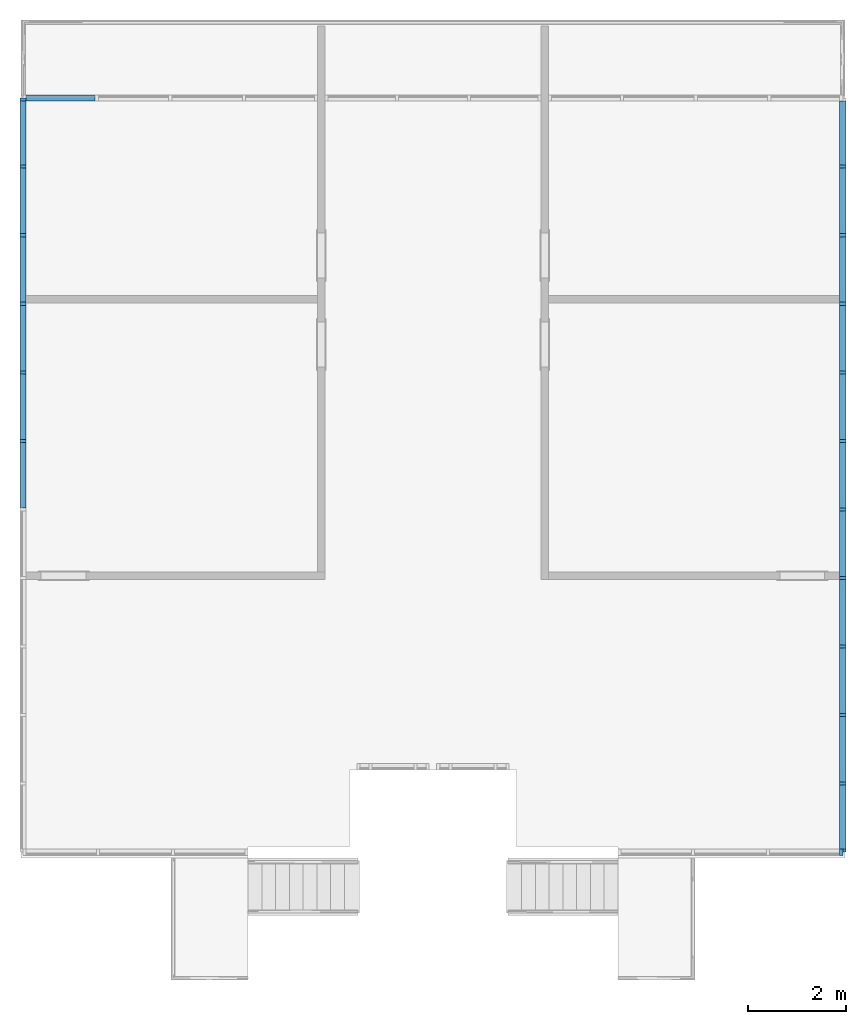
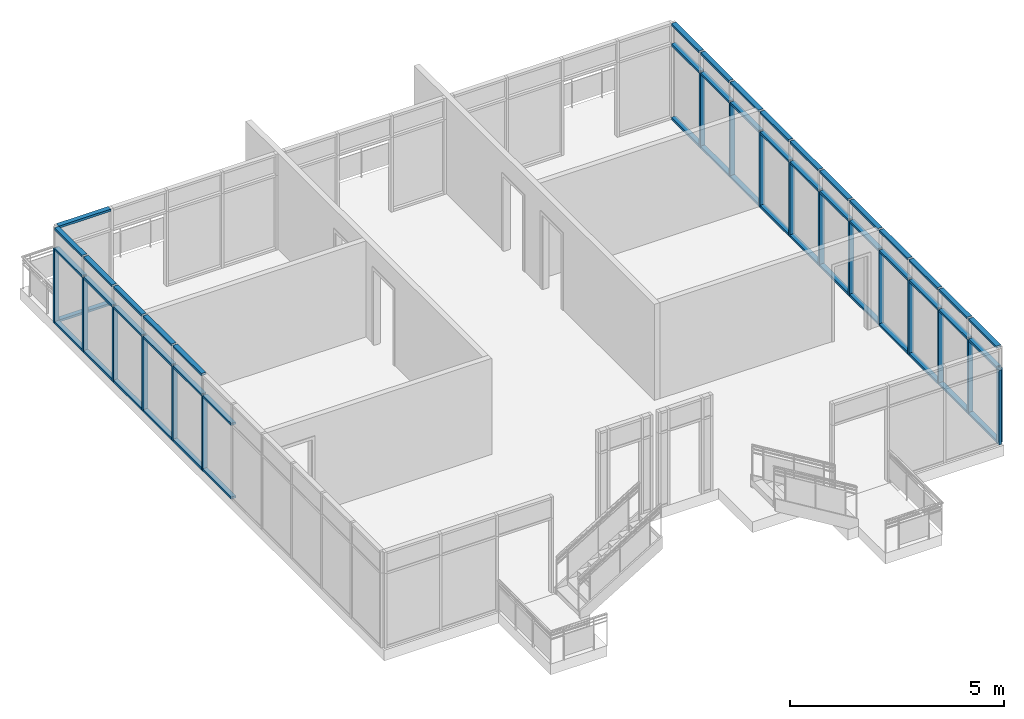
# One storey, part 2 of 11: 70 members, 4 elements without a shape of their own.
"""IFC2X3 building model written with IfcOpenShell, lengths in feet."""

import ifcopenshell
import ifcopenshell.guid

model = None  # the IFC model being written
_history = None  # IfcOwnerHistory: only IFC2X3 demands one
_inside = {}  # id of a spatial element -> (the spatial element, [elements in it])
_under = {}  # id of a project, library or spatial element -> (it, [spatial elements below it])
_declared = {}  # id of a project -> (the project, [libraries it declares])
_typed = {}  # id of a type object -> (the type object, [elements of that type])
_made_of = {}  # id of a material, layer set ... -> (it, [elements and type objects made of it])


def new_model(schema):
    """Start an empty IFC model of exactly this schema.

    Asked for "IFC4X3", IfcOpenShell would pick the latest addendum, in which some entities
    have other attributes; the version numbers below select the first issue.
    IFC2X3 requires an IfcOwnerHistory on every rooted entity: one is made here for all.
    """
    global model, _history
    if schema == "IFC4X3":
        model = ifcopenshell.file(schema_version=(4, 3, 0, 0))
    else:
        model = ifcopenshell.file(schema=schema)
    _inside.clear()
    _under.clear()
    _declared.clear()
    _typed.clear()
    _made_of.clear()
    _history = None
    if model.schema == "IFC2X3":
        org = make("IfcOrganization", Name="unknown")
        user = make(
            "IfcPersonAndOrganization",
            ThePerson=make("IfcPerson", FamilyName="unknown"),
            TheOrganization=org,
        )
        app = make(
            "IfcApplication",
            ApplicationDeveloper=org,
            Version="unknown",
            ApplicationFullName="unknown",
            ApplicationIdentifier="unknown",
        )
        _history = make(
            "IfcOwnerHistory",
            OwningUser=user,
            OwningApplication=app,
            ChangeAction="ADDED",
            CreationDate=0,
        )
    return model


def make(cls, **values):
    """One entity of the class cls with the attributes given. An attribute that is None is left unset."""
    return model.create_entity(
        cls, **{name: value for name, value in values.items() if value is not None}
    )


def entity(cls, *values):
    """Any entity or typed value of the class cls, its attributes in the order of the schema. None: left unset."""
    e = model.create_entity(cls)
    for i, value in enumerate(values):
        if value is not None:
            e[i] = value
    return e


def rooted(cls, **values):
    """An entity with a GlobalId (a new one), such as an element, a storey or a relation."""
    return make(cls, GlobalId=ifcopenshell.guid.new(), OwnerHistory=_history, **values)


def si_unit(unit_type, name, prefix=None):
    """IfcSIUnit, for example si_unit("LENGTHUNIT", "METRE", prefix="MILLI")."""
    return make("IfcSIUnit", UnitType=unit_type, Prefix=prefix, Name=name)


def converted_unit(unit_type, name, factor, base, dimensions=None, offset=None):
    """IfcConversionBasedUnit, such as the inch: factor (a typed value) times the base unit."""
    return make(
        "IfcConversionBasedUnit"
        if offset is None
        else "IfcConversionBasedUnitWithOffset",
        ConversionOffset=offset,
        Dimensions=None
        if dimensions is None
        else entity("IfcDimensionalExponents", *dimensions),
        UnitType=unit_type,
        Name=name,
        ConversionFactor=make(
            "IfcMeasureWithUnit", ValueComponent=factor, UnitComponent=base
        ),
    )


def derived_unit(unit_type, elements):
    """IfcDerivedUnit: a product of units, each with its exponent."""
    return make(
        "IfcDerivedUnit",
        Elements=[
            make("IfcDerivedUnitElement", Unit=unit, Exponent=power)
            for unit, power in elements
        ],
        UnitType=unit_type,
    )


def assignment(units):
    """IfcUnitAssignment: the units of a project."""
    return None if units is None else make("IfcUnitAssignment", Units=units)


def point(xyz):
    """IfcCartesianPoint."""
    return None if xyz is None else make("IfcCartesianPoint", Coordinates=xyz)


def direction(xyz):
    """IfcDirection."""
    return None if xyz is None else make("IfcDirection", DirectionRatios=xyz)


def frame(location, z_axis=None, x_axis=None):
    """IfcAxis2Placement3D, a coordinate frame: its origin and axes. An axis left out is left unset."""
    return make(
        "IfcAxis2Placement3D",
        Location=point(location),
        Axis=direction(z_axis),
        RefDirection=direction(x_axis),
    )


def frame_2d(location, x_axis=None):
    """IfcAxis2Placement2D, a coordinate frame in the plane: its origin and x axis."""
    return make(
        "IfcAxis2Placement2D", Location=point(location), RefDirection=direction(x_axis)
    )


def origin():
    """The frame at (0, 0, 0) with its axes left unset."""
    return frame((0.0, 0.0, 0.0))


def origin_2d_with_axis():
    """The frame at (0, 0) in the plane with the x axis (1, 0) written out."""
    return frame_2d((0.0, 0.0), x_axis=(1.0, 0.0))


def place(relative_to, where):
    """IfcLocalPlacement: puts the frame where relative to a parent placement (None: the world)."""
    return make(
        "IfcLocalPlacement", PlacementRelTo=relative_to, RelativePlacement=where
    )


def context(
    kind, dimensions, precision=None, world=None, true_north=None, identifier=None
):
    """IfcGeometricRepresentationContext, for example the 3D "Model" context."""
    return make(
        "IfcGeometricRepresentationContext",
        ContextIdentifier=identifier,
        ContextType=kind,
        CoordinateSpaceDimension=dimensions,
        Precision=precision,
        WorldCoordinateSystem=world,
        TrueNorth=true_north,
    )


def subcontext(parent, identifier, kind, view, scale=None):
    """IfcGeometricRepresentationSubContext, for example "Body" below "Model"."""
    return make(
        "IfcGeometricRepresentationSubContext",
        ContextIdentifier=identifier,
        ContextType=kind,
        ParentContext=parent,
        TargetScale=scale,
        TargetView=view,
    )


def project(units=None, contexts=None):
    """IfcProject with its units and contexts."""
    return rooted(
        "IfcProject",
        Name="project",
        RepresentationContexts=contexts,
        UnitsInContext=assignment(units),
    )


def spatial(cls, under=None, at=None, **own):
    """A site, building, storey or space (cls), placed at a placement, below another one or the project."""
    s = rooted(cls, ObjectPlacement=at, **own)
    if under is not None:
        _under.setdefault(under.id(), (under, []))[1].append(s)
    return s


def profile(cls, at=None, kind="AREA", **sizes):
    """A parametric profile (cls). Its sizes go by their IFC names, for example OverallWidth=200.0."""
    return make(cls, ProfileType=kind, Position=at, **sizes)


def rectangle(**sizes):
    """IfcRectangleProfileDef."""
    return profile("IfcRectangleProfileDef", **sizes)


def extrude(swept, where, along, depth):
    """IfcExtrudedAreaSolid: the profile swept, set in the frame where, extruded along a direction by depth."""
    return make(
        "IfcExtrudedAreaSolid",
        SweptArea=swept,
        Position=where,
        ExtrudedDirection=direction(along),
        Depth=depth,
    )


def shape(context_of_items, identifier, shape_type, items):
    """IfcShapeRepresentation: the items that make up one representation, for example the "Body"."""
    return make(
        "IfcShapeRepresentation",
        ContextOfItems=context_of_items,
        RepresentationIdentifier=identifier,
        RepresentationType=shape_type,
        Items=items,
    )


def source(mapping_origin, context_of_items, identifier, shape_type, items):
    """IfcRepresentationMap: a shape defined once, which mapped items show again and again."""
    return make(
        "IfcRepresentationMap",
        MappingOrigin=mapping_origin,
        MappedRepresentation=shape(context_of_items, identifier, shape_type, items),
    )


def transform(
    local_origin,
    x_axis=None,
    y_axis=None,
    z_axis=None,
    scale=None,
    scale2=None,
    scale3=None,
    uniform=True,
):
    """IfcCartesianTransformationOperator3D, or its non-uniform kind. x_axis, y_axis, z_axis: its Axis1, 2, 3."""
    if uniform:
        return make(
            "IfcCartesianTransformationOperator3D",
            Axis1=direction(x_axis),
            Axis2=direction(y_axis),
            LocalOrigin=point(local_origin),
            Scale=scale,
            Axis3=direction(z_axis),
        )
    return make(
        "IfcCartesianTransformationOperator3DnonUniform",
        Axis1=direction(x_axis),
        Axis2=direction(y_axis),
        LocalOrigin=point(local_origin),
        Scale=scale,
        Axis3=direction(z_axis),
        Scale2=scale2,
        Scale3=scale3,
    )


def mapped(mapping_source, mapping_target):
    """IfcMappedItem: shows the shape of a source again, moved by a transform."""
    return make(
        "IfcMappedItem", MappingSource=mapping_source, MappingTarget=mapping_target
    )


def material(Name=None, Category=None):
    """IfcMaterial."""
    return make("IfcMaterial", Name=Name, Category=Category)


def made_of(thing, what):
    """Note that an element or type object is made of a material, layer set ...; save() writes the relation."""
    if what is not None:
        _made_of.setdefault(what.id(), (what, []))[1].append(thing)
    return thing


def type_object(cls, material=None, **own):
    """A type object (cls), such as IfcWallType, which elements share."""
    return made_of(rooted(cls, **own), material)


def type_shapes(of_type, sources):
    """Give a type object the sources (RepresentationMaps) that its elements show as mapped items."""
    of_type.RepresentationMaps = sources


def element(
    cls,
    number,
    at=None,
    inside=None,
    cuts=None,
    type_object=None,
    material=None,
    context=None,
    identifier="Body",
    shape_type=None,
    held_by="IfcProductDefinitionShape",
    body=None,
    shapes=None,
    **own,
):
    """One element of the class cls, such as IfcWall. Its Tag is "e" and its number.

    at: its placement. inside: the storey or other place that contains it. cuts: it is an
    opening in that element (IfcRelVoidsElement). A single representation is given by context,
    identifier, shape_type and body (its items); several are given by shapes. held_by: the class
    of the entity that holds the representations. save() writes the other relations.
    """
    e = rooted(cls, Tag="e%d" % number, ObjectPlacement=at, **own)
    if body is not None:
        shapes = [shape(context, identifier, shape_type, body)]
    if shapes is not None:
        e.Representation = make(held_by, Representations=shapes)
    if inside is not None:
        _inside.setdefault(inside.id(), (inside, []))[1].append(e)
    if cuts is not None:
        rooted(
            "IfcRelVoidsElement", RelatingBuildingElement=cuts, RelatedOpeningElement=e
        )
    if type_object is not None:
        _typed.setdefault(type_object.id(), (type_object, []))[1].append(e)
    return made_of(e, material)


def aggregate(whole, parts):
    """IfcRelAggregates: a whole, such as a stair, and the parts it consists of."""
    return rooted("IfcRelAggregates", RelatingObject=whole, RelatedObjects=parts)


def save(model, path):
    """Write the relations noted so far, then the file.

    IfcRelAggregates (storeys below a building ...), IfcRelContainedInSpatialStructure (elements
    in a storey), IfcRelDefinesByType, IfcRelAssociatesMaterial and IfcRelDeclares: one each for
    every whole, place, type object, material and project.
    """
    for whole, parts in _under.values():
        aggregate(whole, parts)
    for where, things in _inside.values():
        rooted(
            "IfcRelContainedInSpatialStructure",
            RelatedElements=things,
            RelatingStructure=where,
        )
    for kind, things in _typed.values():
        rooted("IfcRelDefinesByType", RelatedObjects=things, RelatingType=kind)
    for what, things in _made_of.values():
        rooted("IfcRelAssociatesMaterial", RelatedObjects=things, RelatingMaterial=what)
    for by, libraries in _declared.values():
        rooted("IfcRelDeclares", RelatingContext=by, RelatedDefinitions=libraries)
    model.write(path)


model = new_model("IFC2X3")

# Units and contexts
model_context = context("Model", 3, precision=0.0001, world=origin(), true_north=direction((6.12303176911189e-17, 1.0)))
body_context = subcontext(model_context, "Body", "Model", "MODEL_VIEW")
ifc_project = project(units=[converted_unit("LENGTHUNIT", "FOOT", entity("IfcRatioMeasure", 0.3048), si_unit("LENGTHUNIT", "METRE"), dimensions=[1, 0, 0, 0, 0, 0, 0]), converted_unit("AREAUNIT", "SQUARE FOOT", entity("IfcRatioMeasure", 0.09290304), si_unit("AREAUNIT", "SQUARE_METRE"), dimensions=[2, 0, 0, 0, 0, 0, 0]), converted_unit("VOLUMEUNIT", "CUBIC FOOT", entity("IfcRatioMeasure", 0.028316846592), si_unit("VOLUMEUNIT", "CUBIC_METRE"), dimensions=[3, 0, 0, 0, 0, 0, 0]), converted_unit("PLANEANGLEUNIT", "DEGREE", entity("IfcRatioMeasure", 0.0174532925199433), si_unit("PLANEANGLEUNIT", "RADIAN"), dimensions=[0, 0, 0, 0, 0, 0, 0]), si_unit("MASSUNIT", "GRAM", prefix="KILO"), derived_unit("MASSDENSITYUNIT", [(si_unit("MASSUNIT", "GRAM", prefix="KILO"), 1), (si_unit("LENGTHUNIT", "METRE"), -3)]), si_unit("TIMEUNIT", "SECOND"), si_unit("FREQUENCYUNIT", "HERTZ"), si_unit("THERMODYNAMICTEMPERATUREUNIT", "DEGREE_CELSIUS"), derived_unit("THERMALTRANSMITTANCEUNIT", [(si_unit("MASSUNIT", "GRAM", prefix="KILO"), 1), (si_unit("THERMODYNAMICTEMPERATUREUNIT", "KELVIN"), -1), (si_unit("TIMEUNIT", "SECOND"), -3)]), derived_unit("VOLUMETRICFLOWRATEUNIT", [(si_unit("LENGTHUNIT", "METRE"), 3), (si_unit("TIMEUNIT", "SECOND"), -1)]), si_unit("ELECTRICCURRENTUNIT", "AMPERE"), si_unit("ELECTRICVOLTAGEUNIT", "VOLT"), si_unit("POWERUNIT", "WATT"), si_unit("FORCEUNIT", "NEWTON"), si_unit("ILLUMINANCEUNIT", "LUX"), si_unit("LUMINOUSFLUXUNIT", "LUMEN"), si_unit("LUMINOUSINTENSITYUNIT", "CANDELA"), derived_unit("USERDEFINED", [(si_unit("MASSUNIT", "GRAM", prefix="KILO"), -1), (si_unit("LENGTHUNIT", "METRE"), -2), (si_unit("TIMEUNIT", "SECOND"), 3), (si_unit("LUMINOUSFLUXUNIT", "LUMEN"), 1)]), derived_unit("LINEARVELOCITYUNIT", [(si_unit("LENGTHUNIT", "METRE"), 1), (si_unit("TIMEUNIT", "SECOND"), -1)]), si_unit("PRESSUREUNIT", "PASCAL"), derived_unit("USERDEFINED", [(si_unit("LENGTHUNIT", "METRE"), -2), (si_unit("MASSUNIT", "GRAM", prefix="KILO"), 1), (si_unit("TIMEUNIT", "SECOND"), -2)])], contexts=[model_context])

# Site, building, storey
site_placement = place(None, origin())
site = spatial("IfcSite", under=ifc_project, at=site_placement, Name="Default", CompositionType="ELEMENT")
building_placement = place(site_placement, origin())
building = spatial("IfcBuilding", under=site, at=building_placement, CompositionType="ELEMENT")
storey_placement = place(building_placement, frame((0.0, 0.0, 20.0)))
storey = spatial("IfcBuildingStorey", under=building, at=storey_placement, Name="L 3", CompositionType="ELEMENT", Elevation=19.9999999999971)

# Curtain wall, member
curtain_wall_type = type_object("IfcCurtainWallType", Name="Curtain Wall:Storefront 2", PredefinedType="NOTDEFINED")
curtain_wall_1_placement = place(storey_placement, frame((0.0, 0.0, -20.0)))
curtain_wall_1 = element("IfcCurtainWall", 1, at=curtain_wall_1_placement, inside=storey, type_object=curtain_wall_type, Name="Curtain Wall:Storefront 2", ObjectType="Curtain Wall:Storefront 2")
ifc_material = material(Name="Aluminum")
member_type_1 = type_object("IfcMemberType", Name="2.5\" x 5\" rectangular", PredefinedType="MEMBER")
shared_shape_1 = source(origin(), body_context, "Body", "SweptSolid", [
    extrude(rectangle(XDim=0.416666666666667, YDim=0.208333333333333, at=origin_2d_with_axis()), frame((-0.104166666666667, 0.0, -7.0), z_axis=(0.0, 0.0, 1.0), x_axis=(0.0, -1.0, 0.0)), (0.0, 0.0, 1.0), 7.0),
])
type_shapes(member_type_1, [shared_shape_1])
member_1_placement = place(storey_placement, frame((-61.3251627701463, 43.3505254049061, 0.0), z_axis=(0.0, 0.0, -1.0), x_axis=(0.0, 1.0, 0.0)))
member_1 = element("IfcMember", 2, at=member_1_placement, type_object=member_type_1, material=ifc_material, Name="Rectangular Mullion:2.5\" x 5\" rectangular", ObjectType="2.5\" x 5\" rectangular", context=body_context, shape_type="MappedRepresentation", body=[
    mapped(shared_shape_1, transform((0.0, 0.0, 0.0), scale=1.0)),
])

curtain_wall_2_placement = place(storey_placement, frame((0.0, 0.0, -20.0)))
curtain_wall_2 = element("IfcCurtainWall", 3, at=curtain_wall_2_placement, inside=storey, type_object=curtain_wall_type, Name="Curtain Wall:Storefront 2", ObjectType="Curtain Wall:Storefront 2")
member_2_placement = place(storey_placement, frame((-6.65849610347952, -6.9411412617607, 0.0), z_axis=(0.0, 0.0, -1.0), x_axis=(0.0, -1.0, 0.0)))
member_2 = element("IfcMember", 4, at=member_2_placement, type_object=member_type_1, material=ifc_material, Name="Rectangular Mullion:2.5\" x 5\" rectangular", ObjectType="2.5\" x 5\" rectangular", context=body_context, shape_type="MappedRepresentation", body=[
    mapped(shared_shape_1, transform((0.0, 0.0, 0.0), scale=1.0)),
])

curtain_wall_3_placement = place(storey_placement, frame((0.0, 0.0, -20.0)))
curtain_wall_3 = element("IfcCurtainWall", 5, at=curtain_wall_3_placement, inside=storey, type_object=curtain_wall_type, Name="Curtain Wall:Storefront 2", ObjectType="Curtain Wall:Storefront 2")
member_type_2 = type_object("IfcMemberType", Name="2.5\" x 5\" rectangular", PredefinedType="MEMBER")
shared_shape_2 = source(origin(), body_context, "Body", "SweptSolid", [
    extrude(rectangle(XDim=0.416666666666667, YDim=0.208333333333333, at=origin_2d_with_axis()), frame((-0.104166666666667, 0.0, -7.0), z_axis=(0.0, 0.0, 1.0), x_axis=(0.0, -1.0, 0.0)), (0.0, 0.0, 1.0), 7.0),
])
type_shapes(member_type_2, [shared_shape_2])
member_3_placement = place(storey_placement, frame((-6.65849610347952, -6.94114126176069, 7.0)))
member_3 = element("IfcMember", 6, at=member_3_placement, type_object=member_type_2, material=ifc_material, Name="Rectangular Mullion:2.5\" x 5\" rectangular", ObjectType="2.5\" x 5\" rectangular", context=body_context, shape_type="MappedRepresentation", body=[
    mapped(shared_shape_2, transform((0.0, 0.0, 0.0), scale=1.0)),
])
aggregate(curtain_wall_3, [member_3])

# Member
member_type_3 = type_object("IfcMemberType", Name="2.5\" x 5\" rectangular", PredefinedType="MEMBER")
shared_shape_3 = source(origin(), body_context, "Body", "SweptSolid", [
    extrude(rectangle(XDim=0.416666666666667, YDim=0.208333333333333, at=origin_2d_with_axis()), frame((0.0, 0.0, -7.0), z_axis=(0.0, 0.0, 1.0), x_axis=(0.0, -1.0, 0.0)), (0.0, 0.0, 1.0), 7.0),
])
type_shapes(member_type_3, [shared_shape_3])
member_4_placement = place(storey_placement, frame((-61.3251627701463, 20.4906769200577, 0.0), z_axis=(0.0, 0.0, -1.0), x_axis=(0.0, 1.0, 0.0)))
member_4 = element("IfcMember", 7, at=member_4_placement, type_object=member_type_3, material=ifc_material, Name="Rectangular Mullion:2.5\" x 5\" rectangular", ObjectType="2.5\" x 5\" rectangular", context=body_context, shape_type="MappedRepresentation", body=[
    mapped(shared_shape_3, transform((0.0, 0.0, 0.0), scale=1.0)),
])

member_5_placement = place(storey_placement, frame((-61.3251627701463, 25.0626466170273, 0.0), z_axis=(0.0, 0.0, -1.0), x_axis=(0.0, 1.0, 0.0)))
member_5 = element("IfcMember", 8, at=member_5_placement, type_object=member_type_3, material=ifc_material, Name="Rectangular Mullion:2.5\" x 5\" rectangular", ObjectType="2.5\" x 5\" rectangular", context=body_context, shape_type="MappedRepresentation", body=[
    mapped(shared_shape_3, transform((0.0, 0.0, 0.0), scale=1.0)),
])

member_6_placement = place(storey_placement, frame((-61.3251627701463, 29.634616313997, 0.0), z_axis=(0.0, 0.0, -1.0), x_axis=(0.0, 1.0, 0.0)))
member_6 = element("IfcMember", 9, at=member_6_placement, type_object=member_type_3, material=ifc_material, Name="Rectangular Mullion:2.5\" x 5\" rectangular", ObjectType="2.5\" x 5\" rectangular", context=body_context, shape_type="MappedRepresentation", body=[
    mapped(shared_shape_3, transform((0.0, 0.0, 0.0), scale=1.0)),
])

member_7_placement = place(storey_placement, frame((-61.3251627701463, 34.2065860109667, 0.0), z_axis=(0.0, 0.0, -1.0), x_axis=(0.0, 1.0, 0.0)))
member_7 = element("IfcMember", 10, at=member_7_placement, type_object=member_type_3, material=ifc_material, Name="Rectangular Mullion:2.5\" x 5\" rectangular", ObjectType="2.5\" x 5\" rectangular", context=body_context, shape_type="MappedRepresentation", body=[
    mapped(shared_shape_3, transform((0.0, 0.0, 0.0), scale=1.0)),
])

member_8_placement = place(storey_placement, frame((-61.3251627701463, 38.7785557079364, 0.0), z_axis=(0.0, 0.0, -1.0), x_axis=(0.0, 1.0, 0.0)))
member_8 = element("IfcMember", 11, at=member_8_placement, type_object=member_type_3, material=ifc_material, Name="Rectangular Mullion:2.5\" x 5\" rectangular", ObjectType="2.5\" x 5\" rectangular", context=body_context, shape_type="MappedRepresentation", body=[
    mapped(shared_shape_3, transform((0.0, 0.0, 0.0), scale=1.0)),
])

member_9_placement = place(storey_placement, frame((-6.65849610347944, 38.7785557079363, 0.0), z_axis=(0.0, 0.0, -1.0), x_axis=(0.0, -1.0, 0.0)))
member_9 = element("IfcMember", 12, at=member_9_placement, type_object=member_type_3, material=ifc_material, Name="Rectangular Mullion:2.5\" x 5\" rectangular", ObjectType="2.5\" x 5\" rectangular", context=body_context, shape_type="MappedRepresentation", body=[
    mapped(shared_shape_3, transform((0.0, 0.0, 0.0), scale=1.0)),
])

member_10_placement = place(storey_placement, frame((-6.65849610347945, 34.2065860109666, 0.0), z_axis=(0.0, 0.0, -1.0), x_axis=(0.0, -1.0, 0.0)))
member_10 = element("IfcMember", 13, at=member_10_placement, type_object=member_type_3, material=ifc_material, Name="Rectangular Mullion:2.5\" x 5\" rectangular", ObjectType="2.5\" x 5\" rectangular", context=body_context, shape_type="MappedRepresentation", body=[
    mapped(shared_shape_3, transform((0.0, 0.0, 0.0), scale=1.0)),
])

member_11_placement = place(storey_placement, frame((-6.65849610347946, 29.6346163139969, 0.0), z_axis=(0.0, 0.0, -1.0), x_axis=(0.0, -1.0, 0.0)))
member_11 = element("IfcMember", 14, at=member_11_placement, type_object=member_type_3, material=ifc_material, Name="Rectangular Mullion:2.5\" x 5\" rectangular", ObjectType="2.5\" x 5\" rectangular", context=body_context, shape_type="MappedRepresentation", body=[
    mapped(shared_shape_3, transform((0.0, 0.0, 0.0), scale=1.0)),
])

member_12_placement = place(storey_placement, frame((-6.65849610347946, 25.0626466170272, 0.0), z_axis=(0.0, 0.0, -1.0), x_axis=(0.0, -1.0, 0.0)))
member_12 = element("IfcMember", 15, at=member_12_placement, type_object=member_type_3, material=ifc_material, Name="Rectangular Mullion:2.5\" x 5\" rectangular", ObjectType="2.5\" x 5\" rectangular", context=body_context, shape_type="MappedRepresentation", body=[
    mapped(shared_shape_3, transform((0.0, 0.0, 0.0), scale=1.0)),
])

member_13_placement = place(storey_placement, frame((-6.65849610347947, 20.4906769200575, 0.0), z_axis=(0.0, 0.0, -1.0), x_axis=(0.0, -1.0, 0.0)))
member_13 = element("IfcMember", 16, at=member_13_placement, type_object=member_type_3, material=ifc_material, Name="Rectangular Mullion:2.5\" x 5\" rectangular", ObjectType="2.5\" x 5\" rectangular", context=body_context, shape_type="MappedRepresentation", body=[
    mapped(shared_shape_3, transform((0.0, 0.0, 0.0), scale=1.0)),
])

member_14_placement = place(storey_placement, frame((-6.65849610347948, 15.9187072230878, 0.0), z_axis=(0.0, 0.0, -1.0), x_axis=(0.0, -1.0, 0.0)))
member_14 = element("IfcMember", 17, at=member_14_placement, type_object=member_type_3, material=ifc_material, Name="Rectangular Mullion:2.5\" x 5\" rectangular", ObjectType="2.5\" x 5\" rectangular", context=body_context, shape_type="MappedRepresentation", body=[
    mapped(shared_shape_3, transform((0.0, 0.0, 0.0), scale=1.0)),
])

member_15_placement = place(storey_placement, frame((-6.65849610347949, 11.3467375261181, 0.0), z_axis=(0.0, 0.0, -1.0), x_axis=(0.0, -1.0, 0.0)))
member_15 = element("IfcMember", 18, at=member_15_placement, type_object=member_type_3, material=ifc_material, Name="Rectangular Mullion:2.5\" x 5\" rectangular", ObjectType="2.5\" x 5\" rectangular", context=body_context, shape_type="MappedRepresentation", body=[
    mapped(shared_shape_3, transform((0.0, 0.0, 0.0), scale=1.0)),
])

member_16_placement = place(storey_placement, frame((-6.65849610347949, 6.77476782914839, 0.0), z_axis=(0.0, 0.0, -1.0), x_axis=(0.0, -1.0, 0.0)))
member_16 = element("IfcMember", 19, at=member_16_placement, type_object=member_type_3, material=ifc_material, Name="Rectangular Mullion:2.5\" x 5\" rectangular", ObjectType="2.5\" x 5\" rectangular", context=body_context, shape_type="MappedRepresentation", body=[
    mapped(shared_shape_3, transform((0.0, 0.0, 0.0), scale=1.0)),
])

member_17_placement = place(storey_placement, frame((-6.6584961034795, 2.20279813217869, 0.0), z_axis=(0.0, 0.0, -1.0), x_axis=(0.0, -1.0, 0.0)))
member_17 = element("IfcMember", 20, at=member_17_placement, type_object=member_type_3, material=ifc_material, Name="Rectangular Mullion:2.5\" x 5\" rectangular", ObjectType="2.5\" x 5\" rectangular", context=body_context, shape_type="MappedRepresentation", body=[
    mapped(shared_shape_3, transform((0.0, 0.0, 0.0), scale=1.0)),
])

member_18_placement = place(storey_placement, frame((-6.65849610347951, -2.369171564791, 0.0), z_axis=(0.0, 0.0, -1.0), x_axis=(0.0, -1.0, 0.0)))
member_18 = element("IfcMember", 21, at=member_18_placement, type_object=member_type_3, material=ifc_material, Name="Rectangular Mullion:2.5\" x 5\" rectangular", ObjectType="2.5\" x 5\" rectangular", context=body_context, shape_type="MappedRepresentation", body=[
    mapped(shared_shape_3, transform((0.0, 0.0, 0.0), scale=1.0)),
])

# Curtain wall, member
curtain_wall_4_placement = place(storey_placement, frame((0.0, 0.0, -20.0)))
curtain_wall_4 = element("IfcCurtainWall", 22, at=curtain_wall_4_placement, inside=storey, type_object=curtain_wall_type, Name="Curtain Wall:Storefront 2", ObjectType="Curtain Wall:Storefront 2")
member_type_4 = type_object("IfcMemberType", Name="2.5\" x 5\" rectangular", PredefinedType="MEMBER")
shared_shape_4 = source(origin(), body_context, "Body", "SweptSolid", [
    extrude(rectangle(XDim=0.416666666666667, YDim=0.208333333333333, at=origin_2d_with_axis()), frame((-0.104166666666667, 0.0, -4.59469696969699), z_axis=(0.0, 0.0, 1.0), x_axis=(0.0, -1.0, 0.0)), (0.0, 0.0, 1.0), 4.59469696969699),
])
type_shapes(member_type_4, [shared_shape_4])
member_19_placement = place(storey_placement, frame((-56.522132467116, 43.3505254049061, 9.0), z_axis=(1.0, 0.0, 0.0), x_axis=(0.0, 0.0, 1.0)))
member_19 = element("IfcMember", 23, at=member_19_placement, type_object=member_type_4, material=ifc_material, Name="Rectangular Mullion:2.5\" x 5\" rectangular", ObjectType="2.5\" x 5\" rectangular", context=body_context, shape_type="MappedRepresentation", body=[
    mapped(shared_shape_4, transform((0.0, 0.0, 0.0), scale=1.0)),
])

# Member
member_type_5 = type_object("IfcMemberType", Name="2.5\" x 5\" rectangular", PredefinedType="MEMBER")
shared_shape_5 = source(origin(), body_context, "Body", "SweptSolid", [
    extrude(rectangle(XDim=0.416666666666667, YDim=0.208333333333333, at=origin_2d_with_axis()), frame((-0.104166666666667, 0.0, -4.25946969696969), z_axis=(0.0, 0.0, 1.0), x_axis=(0.0, -1.0, 0.0)), (0.0, 0.0, 1.0), 4.2594696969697),
])
type_shapes(member_type_5, [shared_shape_5])
member_20_placement = place(storey_placement, frame((-61.3251627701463, 43.1421920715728, 9.0), z_axis=(0.0, 1.0, 0.0), x_axis=(0.0, 0.0, 1.0)))
member_20 = element("IfcMember", 24, at=member_20_placement, type_object=member_type_5, material=ifc_material, Name="Rectangular Mullion:2.5\" x 5\" rectangular", ObjectType="2.5\" x 5\" rectangular", context=body_context, shape_type="MappedRepresentation", body=[
    mapped(shared_shape_5, transform((0.0, 0.0, 0.0), scale=1.0)),
])

member_21_placement = place(storey_placement, frame((-6.65849610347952, -6.73280792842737, 9.0), z_axis=(0.0, -1.0, 0.0), x_axis=(0.0, 0.0, 1.0)))
member_21 = element("IfcMember", 25, at=member_21_placement, type_object=member_type_5, material=ifc_material, Name="Rectangular Mullion:2.5\" x 5\" rectangular", ObjectType="2.5\" x 5\" rectangular", context=body_context, shape_type="MappedRepresentation", body=[
    mapped(shared_shape_5, transform((0.0, 0.0, 0.0), scale=1.0)),
])

member_22_placement = place(storey_placement, frame((-6.65849610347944, 38.8827223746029, 9.0), z_axis=(0.0, -1.0, 0.0), x_axis=(0.0, 0.0, 1.0)))
member_22 = element("IfcMember", 26, at=member_22_placement, type_object=member_type_5, material=ifc_material, Name="Rectangular Mullion:2.5\" x 5\" rectangular", ObjectType="2.5\" x 5\" rectangular", context=body_context, shape_type="MappedRepresentation", body=[
    mapped(shared_shape_5, transform((0.0, 0.0, 0.0), scale=1.0)),
])

member_type_6 = type_object("IfcMemberType", Name="2.5\" x 5\" rectangular", PredefinedType="MEMBER")
shared_shape_6 = source(origin(), body_context, "Body", "SweptSolid", [
    extrude(rectangle(XDim=0.416666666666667, YDim=0.208333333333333, at=origin_2d_with_axis()), frame((-0.104166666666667, 0.0, -4.36363636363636), z_axis=(0.0, 0.0, 1.0), x_axis=(0.0, -1.0, 0.0)), (0.0, 0.0, 1.0), 4.36363636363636),
])
type_shapes(member_type_6, [shared_shape_6])
member_23_placement = place(storey_placement, frame((-61.3251627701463, 24.9584799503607, 9.0), z_axis=(0.0, 1.0, 0.0), x_axis=(0.0, 0.0, 1.0)))
member_23 = element("IfcMember", 27, at=member_23_placement, type_object=member_type_6, material=ifc_material, Name="Rectangular Mullion:2.5\" x 5\" rectangular", ObjectType="2.5\" x 5\" rectangular", context=body_context, shape_type="MappedRepresentation", body=[
    mapped(shared_shape_6, transform((0.0, 0.0, 0.0), scale=1.0)),
])

member_24_placement = place(storey_placement, frame((-61.3251627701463, 29.5304496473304, 9.0), z_axis=(0.0, 1.0, 0.0), x_axis=(0.0, 0.0, 1.0)))
member_24 = element("IfcMember", 28, at=member_24_placement, type_object=member_type_6, material=ifc_material, Name="Rectangular Mullion:2.5\" x 5\" rectangular", ObjectType="2.5\" x 5\" rectangular", context=body_context, shape_type="MappedRepresentation", body=[
    mapped(shared_shape_6, transform((0.0, 0.0, 0.0), scale=1.0)),
])

member_25_placement = place(storey_placement, frame((-61.3251627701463, 34.1024193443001, 9.0), z_axis=(0.0, 1.0, 0.0), x_axis=(0.0, 0.0, 1.0)))
member_25 = element("IfcMember", 29, at=member_25_placement, type_object=member_type_6, material=ifc_material, Name="Rectangular Mullion:2.5\" x 5\" rectangular", ObjectType="2.5\" x 5\" rectangular", context=body_context, shape_type="MappedRepresentation", body=[
    mapped(shared_shape_6, transform((0.0, 0.0, 0.0), scale=1.0)),
])

member_26_placement = place(storey_placement, frame((-61.3251627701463, 38.6743890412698, 9.0), z_axis=(0.0, 1.0, 0.0), x_axis=(0.0, 0.0, 1.0)))
member_26 = element("IfcMember", 30, at=member_26_placement, type_object=member_type_6, material=ifc_material, Name="Rectangular Mullion:2.5\" x 5\" rectangular", ObjectType="2.5\" x 5\" rectangular", context=body_context, shape_type="MappedRepresentation", body=[
    mapped(shared_shape_6, transform((0.0, 0.0, 0.0), scale=1.0)),
])

member_27_placement = place(storey_placement, frame((-6.65849610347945, 34.3107526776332, 9.0), z_axis=(0.0, -1.0, 0.0), x_axis=(0.0, 0.0, 1.0)))
member_27 = element("IfcMember", 31, at=member_27_placement, type_object=member_type_6, material=ifc_material, Name="Rectangular Mullion:2.5\" x 5\" rectangular", ObjectType="2.5\" x 5\" rectangular", context=body_context, shape_type="MappedRepresentation", body=[
    mapped(shared_shape_6, transform((0.0, 0.0, 0.0), scale=1.0)),
])

member_28_placement = place(storey_placement, frame((-6.65849610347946, 29.7387829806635, 9.0), z_axis=(0.0, -1.0, 0.0), x_axis=(0.0, 0.0, 1.0)))
member_28 = element("IfcMember", 32, at=member_28_placement, type_object=member_type_6, material=ifc_material, Name="Rectangular Mullion:2.5\" x 5\" rectangular", ObjectType="2.5\" x 5\" rectangular", context=body_context, shape_type="MappedRepresentation", body=[
    mapped(shared_shape_6, transform((0.0, 0.0, 0.0), scale=1.0)),
])

member_29_placement = place(storey_placement, frame((-6.65849610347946, 25.1668132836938, 9.0), z_axis=(0.0, -1.0, 0.0), x_axis=(0.0, 0.0, 1.0)))
member_29 = element("IfcMember", 33, at=member_29_placement, type_object=member_type_6, material=ifc_material, Name="Rectangular Mullion:2.5\" x 5\" rectangular", ObjectType="2.5\" x 5\" rectangular", context=body_context, shape_type="MappedRepresentation", body=[
    mapped(shared_shape_6, transform((0.0, 0.0, 0.0), scale=1.0)),
])

member_30_placement = place(storey_placement, frame((-6.65849610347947, 20.5948435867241, 9.0), z_axis=(0.0, -1.0, 0.0), x_axis=(0.0, 0.0, 1.0)))
member_30 = element("IfcMember", 34, at=member_30_placement, type_object=member_type_6, material=ifc_material, Name="Rectangular Mullion:2.5\" x 5\" rectangular", ObjectType="2.5\" x 5\" rectangular", context=body_context, shape_type="MappedRepresentation", body=[
    mapped(shared_shape_6, transform((0.0, 0.0, 0.0), scale=1.0)),
])

member_31_placement = place(storey_placement, frame((-6.65849610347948, 16.0228738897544, 9.0), z_axis=(0.0, -1.0, 0.0), x_axis=(0.0, 0.0, 1.0)))
member_31 = element("IfcMember", 35, at=member_31_placement, type_object=member_type_6, material=ifc_material, Name="Rectangular Mullion:2.5\" x 5\" rectangular", ObjectType="2.5\" x 5\" rectangular", context=body_context, shape_type="MappedRepresentation", body=[
    mapped(shared_shape_6, transform((0.0, 0.0, 0.0), scale=1.0)),
])

member_32_placement = place(storey_placement, frame((-6.65849610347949, 11.4509041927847, 9.0), z_axis=(0.0, -1.0, 0.0), x_axis=(0.0, 0.0, 1.0)))
member_32 = element("IfcMember", 36, at=member_32_placement, type_object=member_type_6, material=ifc_material, Name="Rectangular Mullion:2.5\" x 5\" rectangular", ObjectType="2.5\" x 5\" rectangular", context=body_context, shape_type="MappedRepresentation", body=[
    mapped(shared_shape_6, transform((0.0, 0.0, 0.0), scale=1.0)),
])

member_33_placement = place(storey_placement, frame((-6.65849610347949, 6.87893449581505, 9.0), z_axis=(0.0, -1.0, 0.0), x_axis=(0.0, 0.0, 1.0)))
member_33 = element("IfcMember", 37, at=member_33_placement, type_object=member_type_6, material=ifc_material, Name="Rectangular Mullion:2.5\" x 5\" rectangular", ObjectType="2.5\" x 5\" rectangular", context=body_context, shape_type="MappedRepresentation", body=[
    mapped(shared_shape_6, transform((0.0, 0.0, 0.0), scale=1.0)),
])

member_34_placement = place(storey_placement, frame((-6.6584961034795, 2.30696479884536, 9.0), z_axis=(0.0, -1.0, 0.0), x_axis=(0.0, 0.0, 1.0)))
member_34 = element("IfcMember", 38, at=member_34_placement, type_object=member_type_6, material=ifc_material, Name="Rectangular Mullion:2.5\" x 5\" rectangular", ObjectType="2.5\" x 5\" rectangular", context=body_context, shape_type="MappedRepresentation", body=[
    mapped(shared_shape_6, transform((0.0, 0.0, 0.0), scale=1.0)),
])

member_35_placement = place(storey_placement, frame((-6.65849610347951, -2.26500489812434, 9.0), z_axis=(0.0, -1.0, 0.0), x_axis=(0.0, 0.0, 1.0)))
member_35 = element("IfcMember", 39, at=member_35_placement, type_object=member_type_6, material=ifc_material, Name="Rectangular Mullion:2.5\" x 5\" rectangular", ObjectType="2.5\" x 5\" rectangular", context=body_context, shape_type="MappedRepresentation", body=[
    mapped(shared_shape_6, transform((0.0, 0.0, 0.0), scale=1.0)),
])

member_type_7 = type_object("IfcMemberType", Name="2.5\" x 5\" rectangular", PredefinedType="MEMBER")
shared_shape_7 = source(origin(), body_context, "Body", "SweptSolid", [
    extrude(rectangle(XDim=0.416666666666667, YDim=0.208333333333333, at=origin_2d_with_axis()), frame((-0.104166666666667, 0.0, -4.25946969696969), z_axis=(0.0, 0.0, 1.0), x_axis=(0.0, -1.0, 0.0)), (0.0, 0.0, 1.0), 4.25946969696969),
])
type_shapes(member_type_7, [shared_shape_7])
member_36_placement = place(storey_placement, frame((-61.3251627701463, 38.8827223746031, 0.0), z_axis=(0.0, -1.0, 0.0), x_axis=(0.0, 0.0, -1.0)))
member_36 = element("IfcMember", 40, at=member_36_placement, type_object=member_type_7, material=ifc_material, Name="Rectangular Mullion:2.5\" x 5\" rectangular", ObjectType="2.5\" x 5\" rectangular", context=body_context, shape_type="MappedRepresentation", body=[
    mapped(shared_shape_7, transform((0.0, 0.0, 0.0), scale=1.0)),
])

member_37_placement = place(storey_placement, frame((-6.65849610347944, 43.1421920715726, 0.0), z_axis=(0.0, 1.0, 0.0), x_axis=(0.0, 0.0, -1.0)))
member_37 = element("IfcMember", 41, at=member_37_placement, type_object=member_type_7, material=ifc_material, Name="Rectangular Mullion:2.5\" x 5\" rectangular", ObjectType="2.5\" x 5\" rectangular", context=body_context, shape_type="MappedRepresentation", body=[
    mapped(shared_shape_7, transform((0.0, 0.0, 0.0), scale=1.0)),
])

member_38_placement = place(storey_placement, frame((-6.65849610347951, -2.47333823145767, 0.0), z_axis=(0.0, 1.0, 0.0), x_axis=(0.0, 0.0, -1.0)))
member_38 = element("IfcMember", 42, at=member_38_placement, type_object=member_type_7, material=ifc_material, Name="Rectangular Mullion:2.5\" x 5\" rectangular", ObjectType="2.5\" x 5\" rectangular", context=body_context, shape_type="MappedRepresentation", body=[
    mapped(shared_shape_7, transform((0.0, 0.0, 0.0), scale=1.0)),
])

member_type_8 = type_object("IfcMemberType", Name="2.5\" x 5\" rectangular", PredefinedType="MEMBER")
shared_shape_8 = source(origin(), body_context, "Body", "SweptSolid", [
    extrude(rectangle(XDim=0.416666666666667, YDim=0.208333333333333, at=origin_2d_with_axis()), frame((-0.104166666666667, 0.0, -4.36363636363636), z_axis=(0.0, 0.0, 1.0), x_axis=(0.0, -1.0, 0.0)), (0.0, 0.0, 1.0), 4.36363636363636),
])
type_shapes(member_type_8, [shared_shape_8])
member_39_placement = place(storey_placement, frame((-61.3251627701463, 16.0228738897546, 0.0), z_axis=(0.0, -1.0, 0.0), x_axis=(0.0, 0.0, -1.0)))
member_39 = element("IfcMember", 43, at=member_39_placement, type_object=member_type_8, material=ifc_material, Name="Rectangular Mullion:2.5\" x 5\" rectangular", ObjectType="2.5\" x 5\" rectangular", context=body_context, shape_type="MappedRepresentation", body=[
    mapped(shared_shape_8, transform((0.0, 0.0, 0.0), scale=1.0)),
])

member_40_placement = place(storey_placement, frame((-61.3251627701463, 20.5948435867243, 0.0), z_axis=(0.0, -1.0, 0.0), x_axis=(0.0, 0.0, -1.0)))
member_40 = element("IfcMember", 44, at=member_40_placement, type_object=member_type_8, material=ifc_material, Name="Rectangular Mullion:2.5\" x 5\" rectangular", ObjectType="2.5\" x 5\" rectangular", context=body_context, shape_type="MappedRepresentation", body=[
    mapped(shared_shape_8, transform((0.0, 0.0, 0.0), scale=1.0)),
])

member_41_placement = place(storey_placement, frame((-61.3251627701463, 25.166813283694, 0.0), z_axis=(0.0, -1.0, 0.0), x_axis=(0.0, 0.0, -1.0)))
member_41 = element("IfcMember", 45, at=member_41_placement, type_object=member_type_8, material=ifc_material, Name="Rectangular Mullion:2.5\" x 5\" rectangular", ObjectType="2.5\" x 5\" rectangular", context=body_context, shape_type="MappedRepresentation", body=[
    mapped(shared_shape_8, transform((0.0, 0.0, 0.0), scale=1.0)),
])

member_42_placement = place(storey_placement, frame((-61.3251627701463, 29.7387829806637, 0.0), z_axis=(0.0, -1.0, 0.0), x_axis=(0.0, 0.0, -1.0)))
member_42 = element("IfcMember", 46, at=member_42_placement, type_object=member_type_8, material=ifc_material, Name="Rectangular Mullion:2.5\" x 5\" rectangular", ObjectType="2.5\" x 5\" rectangular", context=body_context, shape_type="MappedRepresentation", body=[
    mapped(shared_shape_8, transform((0.0, 0.0, 0.0), scale=1.0)),
])

member_43_placement = place(storey_placement, frame((-61.3251627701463, 34.3107526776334, 0.0), z_axis=(0.0, -1.0, 0.0), x_axis=(0.0, 0.0, -1.0)))
member_43 = element("IfcMember", 47, at=member_43_placement, type_object=member_type_8, material=ifc_material, Name="Rectangular Mullion:2.5\" x 5\" rectangular", ObjectType="2.5\" x 5\" rectangular", context=body_context, shape_type="MappedRepresentation", body=[
    mapped(shared_shape_8, transform((0.0, 0.0, 0.0), scale=1.0)),
])

member_44_placement = place(storey_placement, frame((-6.65849610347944, 38.6743890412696, 0.0), z_axis=(0.0, 1.0, 0.0), x_axis=(0.0, 0.0, -1.0)))
member_44 = element("IfcMember", 48, at=member_44_placement, type_object=member_type_8, material=ifc_material, Name="Rectangular Mullion:2.5\" x 5\" rectangular", ObjectType="2.5\" x 5\" rectangular", context=body_context, shape_type="MappedRepresentation", body=[
    mapped(shared_shape_8, transform((0.0, 0.0, 0.0), scale=1.0)),
])

member_45_placement = place(storey_placement, frame((-6.65849610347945, 34.1024193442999, 0.0), z_axis=(0.0, 1.0, 0.0), x_axis=(0.0, 0.0, -1.0)))
member_45 = element("IfcMember", 49, at=member_45_placement, type_object=member_type_8, material=ifc_material, Name="Rectangular Mullion:2.5\" x 5\" rectangular", ObjectType="2.5\" x 5\" rectangular", context=body_context, shape_type="MappedRepresentation", body=[
    mapped(shared_shape_8, transform((0.0, 0.0, 0.0), scale=1.0)),
])

member_46_placement = place(storey_placement, frame((-6.65849610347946, 29.5304496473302, 0.0), z_axis=(0.0, 1.0, 0.0), x_axis=(0.0, 0.0, -1.0)))
member_46 = element("IfcMember", 50, at=member_46_placement, type_object=member_type_8, material=ifc_material, Name="Rectangular Mullion:2.5\" x 5\" rectangular", ObjectType="2.5\" x 5\" rectangular", context=body_context, shape_type="MappedRepresentation", body=[
    mapped(shared_shape_8, transform((0.0, 0.0, 0.0), scale=1.0)),
])

member_47_placement = place(storey_placement, frame((-6.65849610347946, 24.9584799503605, 0.0), z_axis=(0.0, 1.0, 0.0), x_axis=(0.0, 0.0, -1.0)))
member_47 = element("IfcMember", 51, at=member_47_placement, type_object=member_type_8, material=ifc_material, Name="Rectangular Mullion:2.5\" x 5\" rectangular", ObjectType="2.5\" x 5\" rectangular", context=body_context, shape_type="MappedRepresentation", body=[
    mapped(shared_shape_8, transform((0.0, 0.0, 0.0), scale=1.0)),
])

member_48_placement = place(storey_placement, frame((-6.65849610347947, 20.3865102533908, 0.0), z_axis=(0.0, 1.0, 0.0), x_axis=(0.0, 0.0, -1.0)))
member_48 = element("IfcMember", 52, at=member_48_placement, type_object=member_type_8, material=ifc_material, Name="Rectangular Mullion:2.5\" x 5\" rectangular", ObjectType="2.5\" x 5\" rectangular", context=body_context, shape_type="MappedRepresentation", body=[
    mapped(shared_shape_8, transform((0.0, 0.0, 0.0), scale=1.0)),
])

member_49_placement = place(storey_placement, frame((-6.65849610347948, 15.8145405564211, 0.0), z_axis=(0.0, 1.0, 0.0), x_axis=(0.0, 0.0, -1.0)))
member_49 = element("IfcMember", 53, at=member_49_placement, type_object=member_type_8, material=ifc_material, Name="Rectangular Mullion:2.5\" x 5\" rectangular", ObjectType="2.5\" x 5\" rectangular", context=body_context, shape_type="MappedRepresentation", body=[
    mapped(shared_shape_8, transform((0.0, 0.0, 0.0), scale=1.0)),
])

member_50_placement = place(storey_placement, frame((-6.65849610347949, 11.2425708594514, 0.0), z_axis=(0.0, 1.0, 0.0), x_axis=(0.0, 0.0, -1.0)))
member_50 = element("IfcMember", 54, at=member_50_placement, type_object=member_type_8, material=ifc_material, Name="Rectangular Mullion:2.5\" x 5\" rectangular", ObjectType="2.5\" x 5\" rectangular", context=body_context, shape_type="MappedRepresentation", body=[
    mapped(shared_shape_8, transform((0.0, 0.0, 0.0), scale=1.0)),
])

member_51_placement = place(storey_placement, frame((-6.65849610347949, 6.67060116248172, 0.0), z_axis=(0.0, 1.0, 0.0), x_axis=(0.0, 0.0, -1.0)))
member_51 = element("IfcMember", 55, at=member_51_placement, type_object=member_type_8, material=ifc_material, Name="Rectangular Mullion:2.5\" x 5\" rectangular", ObjectType="2.5\" x 5\" rectangular", context=body_context, shape_type="MappedRepresentation", body=[
    mapped(shared_shape_8, transform((0.0, 0.0, 0.0), scale=1.0)),
])

member_52_placement = place(storey_placement, frame((-6.6584961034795, 2.09863146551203, 0.0), z_axis=(0.0, 1.0, 0.0), x_axis=(0.0, 0.0, -1.0)))
member_52 = element("IfcMember", 56, at=member_52_placement, type_object=member_type_8, material=ifc_material, Name="Rectangular Mullion:2.5\" x 5\" rectangular", ObjectType="2.5\" x 5\" rectangular", context=body_context, shape_type="MappedRepresentation", body=[
    mapped(shared_shape_8, transform((0.0, 0.0, 0.0), scale=1.0)),
])

member_type_9 = type_object("IfcMemberType", Name="2.5\" x 5\" rectangular", PredefinedType="MEMBER")
shared_shape_9 = source(origin(), body_context, "Body", "SweptSolid", [
    extrude(rectangle(XDim=0.416666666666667, YDim=0.208333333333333, at=origin_2d_with_axis()), frame((0.0, 0.0, -4.2594696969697), z_axis=(0.0, 0.0, 1.0), x_axis=(0.0, -1.0, 0.0)), (0.0, 0.0, 1.0), 4.2594696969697),
])
type_shapes(member_type_9, [shared_shape_9])
member_53_placement = place(storey_placement, frame((-61.3251627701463, 43.1421920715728, 7.0), z_axis=(0.0, 1.0, 0.0), x_axis=(0.0, 0.0, 1.0)))
member_53 = element("IfcMember", 57, at=member_53_placement, type_object=member_type_9, material=ifc_material, Name="Rectangular Mullion:2.5\" x 5\" rectangular", ObjectType="2.5\" x 5\" rectangular", context=body_context, shape_type="MappedRepresentation", body=[
    mapped(shared_shape_9, transform((0.0, 0.0, 0.0), scale=1.0)),
])

member_54_placement = place(storey_placement, frame((-6.65849610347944, 38.8827223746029, 7.0), z_axis=(0.0, -1.0, 0.0), x_axis=(0.0, 0.0, 1.0)))
member_54 = element("IfcMember", 58, at=member_54_placement, type_object=member_type_9, material=ifc_material, Name="Rectangular Mullion:2.5\" x 5\" rectangular", ObjectType="2.5\" x 5\" rectangular", context=body_context, shape_type="MappedRepresentation", body=[
    mapped(shared_shape_9, transform((0.0, 0.0, 0.0), scale=1.0)),
])

member_55_placement = place(storey_placement, frame((-6.65849610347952, -6.73280792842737, 7.0), z_axis=(0.0, -1.0, 0.0), x_axis=(0.0, 0.0, 1.0)))
member_55 = element("IfcMember", 59, at=member_55_placement, type_object=member_type_9, material=ifc_material, Name="Rectangular Mullion:2.5\" x 5\" rectangular", ObjectType="2.5\" x 5\" rectangular", context=body_context, shape_type="MappedRepresentation", body=[
    mapped(shared_shape_9, transform((0.0, 0.0, 0.0), scale=1.0)),
])

member_type_10 = type_object("IfcMemberType", Name="2.5\" x 5\" rectangular", PredefinedType="MEMBER")
shared_shape_10 = source(origin(), body_context, "Body", "SweptSolid", [
    extrude(rectangle(XDim=0.416666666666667, YDim=0.208333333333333, at=origin_2d_with_axis()), frame((0.0, 0.0, -4.36363636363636), z_axis=(0.0, 0.0, 1.0), x_axis=(0.0, -1.0, 0.0)), (0.0, 0.0, 1.0), 4.36363636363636),
])
type_shapes(member_type_10, [shared_shape_10])
member_56_placement = place(storey_placement, frame((-61.3251627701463, 20.386510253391, 7.0), z_axis=(0.0, 1.0, 0.0), x_axis=(0.0, 0.0, 1.0)))
member_56 = element("IfcMember", 60, at=member_56_placement, type_object=member_type_10, material=ifc_material, Name="Rectangular Mullion:2.5\" x 5\" rectangular", ObjectType="2.5\" x 5\" rectangular", context=body_context, shape_type="MappedRepresentation", body=[
    mapped(shared_shape_10, transform((0.0, 0.0, 0.0), scale=1.0)),
])

member_57_placement = place(storey_placement, frame((-61.3251627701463, 24.9584799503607, 7.0), z_axis=(0.0, 1.0, 0.0), x_axis=(0.0, 0.0, 1.0)))
member_57 = element("IfcMember", 61, at=member_57_placement, type_object=member_type_10, material=ifc_material, Name="Rectangular Mullion:2.5\" x 5\" rectangular", ObjectType="2.5\" x 5\" rectangular", context=body_context, shape_type="MappedRepresentation", body=[
    mapped(shared_shape_10, transform((0.0, 0.0, 0.0), scale=1.0)),
])

member_58_placement = place(storey_placement, frame((-61.3251627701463, 29.5304496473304, 7.0), z_axis=(0.0, 1.0, 0.0), x_axis=(0.0, 0.0, 1.0)))
member_58 = element("IfcMember", 62, at=member_58_placement, type_object=member_type_10, material=ifc_material, Name="Rectangular Mullion:2.5\" x 5\" rectangular", ObjectType="2.5\" x 5\" rectangular", context=body_context, shape_type="MappedRepresentation", body=[
    mapped(shared_shape_10, transform((0.0, 0.0, 0.0), scale=1.0)),
])

member_59_placement = place(storey_placement, frame((-61.3251627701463, 34.1024193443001, 7.0), z_axis=(0.0, 1.0, 0.0), x_axis=(0.0, 0.0, 1.0)))
member_59 = element("IfcMember", 63, at=member_59_placement, type_object=member_type_10, material=ifc_material, Name="Rectangular Mullion:2.5\" x 5\" rectangular", ObjectType="2.5\" x 5\" rectangular", context=body_context, shape_type="MappedRepresentation", body=[
    mapped(shared_shape_10, transform((0.0, 0.0, 0.0), scale=1.0)),
])

member_60_placement = place(storey_placement, frame((-61.3251627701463, 38.6743890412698, 7.0), z_axis=(0.0, 1.0, 0.0), x_axis=(0.0, 0.0, 1.0)))
member_60 = element("IfcMember", 64, at=member_60_placement, type_object=member_type_10, material=ifc_material, Name="Rectangular Mullion:2.5\" x 5\" rectangular", ObjectType="2.5\" x 5\" rectangular", context=body_context, shape_type="MappedRepresentation", body=[
    mapped(shared_shape_10, transform((0.0, 0.0, 0.0), scale=1.0)),
])

aggregate(curtain_wall_1, [member_20, member_23, member_24, member_25, member_39, member_40, member_41, member_42, member_43, member_1, member_56, member_57, member_58, member_59, member_60, member_4, member_5, member_6, member_7, member_26, member_36, member_53, member_8])

member_61_placement = place(storey_placement, frame((-6.65849610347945, 34.3107526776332, 7.0), z_axis=(0.0, -1.0, 0.0), x_axis=(0.0, 0.0, 1.0)))
member_61 = element("IfcMember", 65, at=member_61_placement, type_object=member_type_10, material=ifc_material, Name="Rectangular Mullion:2.5\" x 5\" rectangular", ObjectType="2.5\" x 5\" rectangular", context=body_context, shape_type="MappedRepresentation", body=[
    mapped(shared_shape_10, transform((0.0, 0.0, 0.0), scale=1.0)),
])

member_62_placement = place(storey_placement, frame((-6.65849610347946, 29.7387829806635, 7.0), z_axis=(0.0, -1.0, 0.0), x_axis=(0.0, 0.0, 1.0)))
member_62 = element("IfcMember", 66, at=member_62_placement, type_object=member_type_10, material=ifc_material, Name="Rectangular Mullion:2.5\" x 5\" rectangular", ObjectType="2.5\" x 5\" rectangular", context=body_context, shape_type="MappedRepresentation", body=[
    mapped(shared_shape_10, transform((0.0, 0.0, 0.0), scale=1.0)),
])

member_63_placement = place(storey_placement, frame((-6.65849610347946, 25.1668132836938, 7.0), z_axis=(0.0, -1.0, 0.0), x_axis=(0.0, 0.0, 1.0)))
member_63 = element("IfcMember", 67, at=member_63_placement, type_object=member_type_10, material=ifc_material, Name="Rectangular Mullion:2.5\" x 5\" rectangular", ObjectType="2.5\" x 5\" rectangular", context=body_context, shape_type="MappedRepresentation", body=[
    mapped(shared_shape_10, transform((0.0, 0.0, 0.0), scale=1.0)),
])

member_64_placement = place(storey_placement, frame((-6.65849610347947, 20.5948435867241, 7.0), z_axis=(0.0, -1.0, 0.0), x_axis=(0.0, 0.0, 1.0)))
member_64 = element("IfcMember", 68, at=member_64_placement, type_object=member_type_10, material=ifc_material, Name="Rectangular Mullion:2.5\" x 5\" rectangular", ObjectType="2.5\" x 5\" rectangular", context=body_context, shape_type="MappedRepresentation", body=[
    mapped(shared_shape_10, transform((0.0, 0.0, 0.0), scale=1.0)),
])

member_65_placement = place(storey_placement, frame((-6.65849610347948, 16.0228738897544, 7.0), z_axis=(0.0, -1.0, 0.0), x_axis=(0.0, 0.0, 1.0)))
member_65 = element("IfcMember", 69, at=member_65_placement, type_object=member_type_10, material=ifc_material, Name="Rectangular Mullion:2.5\" x 5\" rectangular", ObjectType="2.5\" x 5\" rectangular", context=body_context, shape_type="MappedRepresentation", body=[
    mapped(shared_shape_10, transform((0.0, 0.0, 0.0), scale=1.0)),
])

member_66_placement = place(storey_placement, frame((-6.65849610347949, 11.4509041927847, 7.0), z_axis=(0.0, -1.0, 0.0), x_axis=(0.0, 0.0, 1.0)))
member_66 = element("IfcMember", 70, at=member_66_placement, type_object=member_type_10, material=ifc_material, Name="Rectangular Mullion:2.5\" x 5\" rectangular", ObjectType="2.5\" x 5\" rectangular", context=body_context, shape_type="MappedRepresentation", body=[
    mapped(shared_shape_10, transform((0.0, 0.0, 0.0), scale=1.0)),
])

member_67_placement = place(storey_placement, frame((-6.65849610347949, 6.87893449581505, 7.0), z_axis=(0.0, -1.0, 0.0), x_axis=(0.0, 0.0, 1.0)))
member_67 = element("IfcMember", 71, at=member_67_placement, type_object=member_type_10, material=ifc_material, Name="Rectangular Mullion:2.5\" x 5\" rectangular", ObjectType="2.5\" x 5\" rectangular", context=body_context, shape_type="MappedRepresentation", body=[
    mapped(shared_shape_10, transform((0.0, 0.0, 0.0), scale=1.0)),
])

member_68_placement = place(storey_placement, frame((-6.6584961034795, 2.30696479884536, 7.0), z_axis=(0.0, -1.0, 0.0), x_axis=(0.0, 0.0, 1.0)))
member_68 = element("IfcMember", 72, at=member_68_placement, type_object=member_type_10, material=ifc_material, Name="Rectangular Mullion:2.5\" x 5\" rectangular", ObjectType="2.5\" x 5\" rectangular", context=body_context, shape_type="MappedRepresentation", body=[
    mapped(shared_shape_10, transform((0.0, 0.0, 0.0), scale=1.0)),
])

member_69_placement = place(storey_placement, frame((-6.65849610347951, -2.26500489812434, 7.0), z_axis=(0.0, -1.0, 0.0), x_axis=(0.0, 0.0, 1.0)))
member_69 = element("IfcMember", 73, at=member_69_placement, type_object=member_type_10, material=ifc_material, Name="Rectangular Mullion:2.5\" x 5\" rectangular", ObjectType="2.5\" x 5\" rectangular", context=body_context, shape_type="MappedRepresentation", body=[
    mapped(shared_shape_10, transform((0.0, 0.0, 0.0), scale=1.0)),
])

aggregate(curtain_wall_2, [member_21, member_22, member_27, member_28, member_29, member_30, member_31, member_32, member_33, member_34, member_37, member_44, member_45, member_46, member_47, member_48, member_49, member_50, member_51, member_52, member_2, member_54, member_61, member_62, member_63, member_64, member_65, member_66, member_67, member_68, member_69, member_9, member_10, member_11, member_12, member_13, member_14, member_15, member_16, member_17, member_35, member_38, member_55, member_18])

member_type_11 = type_object("IfcMemberType", Name="2.5\" x 5\" rectangular", PredefinedType="MEMBER")
shared_shape_11 = source(origin(), body_context, "Body", "SweptSolid", [
    extrude(rectangle(XDim=0.416666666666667, YDim=0.208333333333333, at=origin_2d_with_axis()), frame((-0.104166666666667, 0.0, -4.59469696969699), z_axis=(0.0, 0.0, 1.0), x_axis=(0.0, -1.0, 0.0)), (0.0, 0.0, 1.0), 4.59469696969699),
])
type_shapes(member_type_11, [shared_shape_11])
member_70_placement = place(storey_placement, frame((-61.1168294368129, 43.3505254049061, 0.0), z_axis=(-1.0, 0.0, 0.0), x_axis=(0.0, 0.0, -1.0)))
member_70 = element("IfcMember", 74, at=member_70_placement, type_object=member_type_11, material=ifc_material, Name="Rectangular Mullion:2.5\" x 5\" rectangular", ObjectType="2.5\" x 5\" rectangular", context=body_context, shape_type="MappedRepresentation", body=[
    mapped(shared_shape_11, transform((0.0, 0.0, 0.0), scale=1.0)),
])

aggregate(curtain_wall_4, [member_19, member_70])

save(model, "model.ifc")
